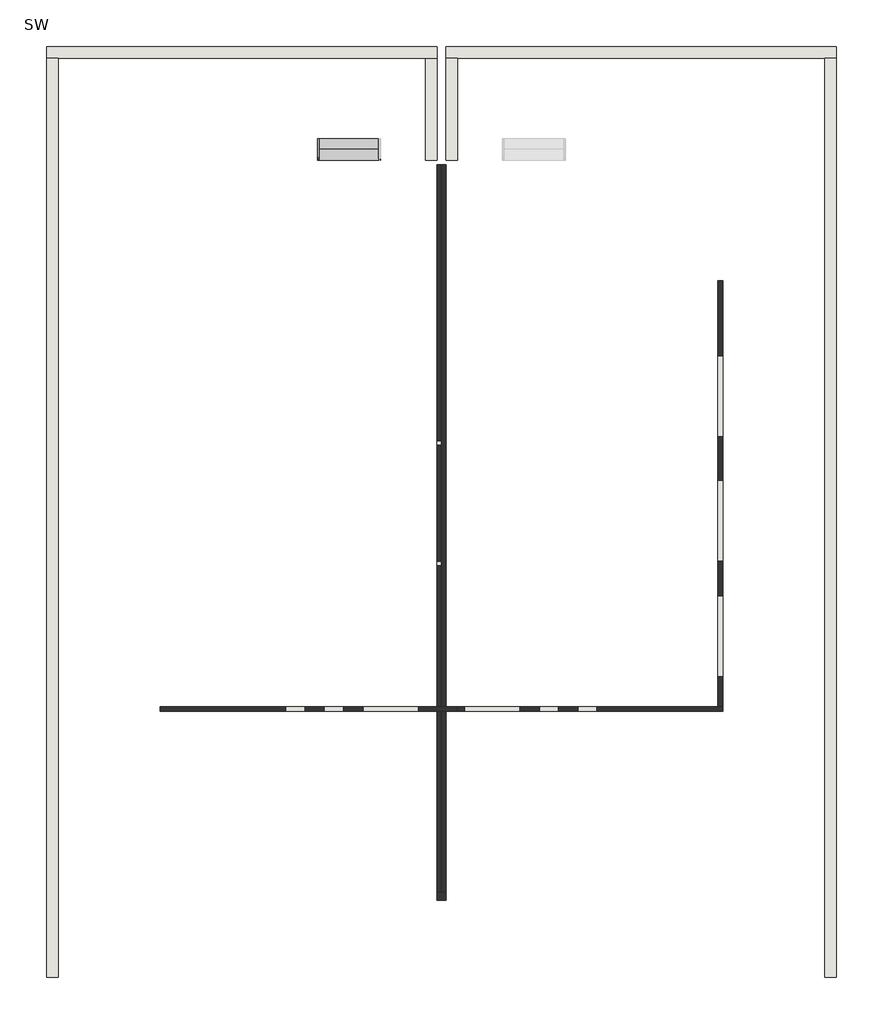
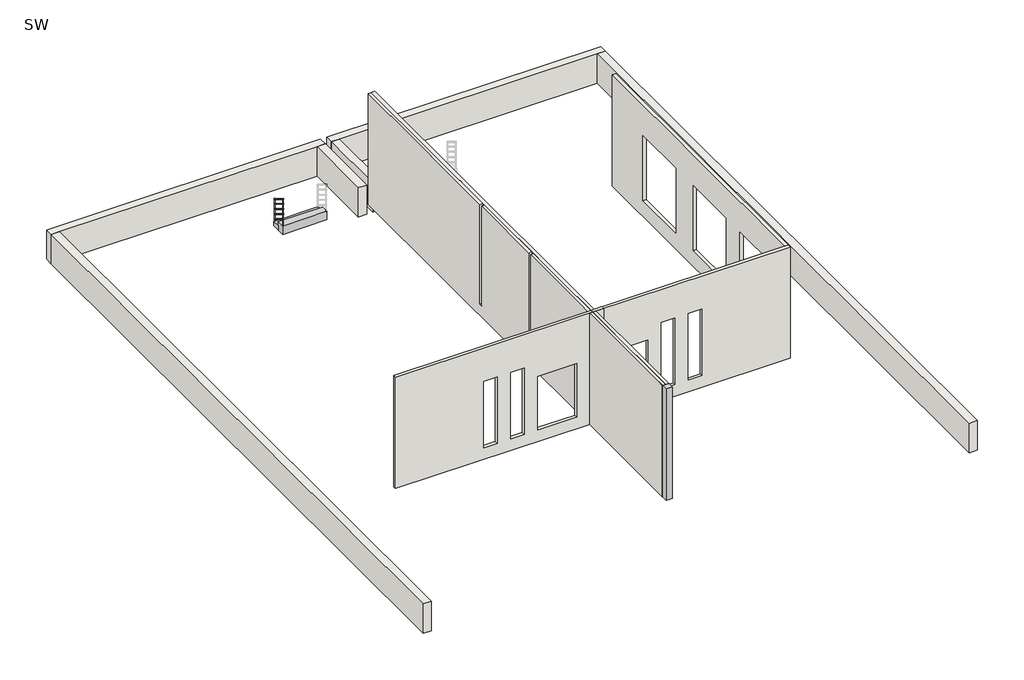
# One storey, part 1 of 2: 11 walls, 1 column, 1 railing, 1 stair flight.
"""IFC4 building model written with IfcOpenShell, lengths in millimetres."""

from ifc_helpers import new_model, si_unit, frame, origin, place, context, project, spatial, polyline, circle_curve, ellipse_curve, outline, extrude, faceted_brep, transform, mapped, element, save
from ifc_brep_helpers import plane_surface, cylinder_surface, advanced_brep
from components import z3_80b114b1

model = new_model("IFC4")

# Units and contexts
model_context = context("Model", 3, world=origin())
ifc_project = project(units=[si_unit("LENGTHUNIT", "METRE", prefix="MILLI")], contexts=[model_context])

# Site, building, storey
site = spatial("IfcSite", under=ifc_project)
building = spatial("IfcBuilding", under=site)
storey = spatial("IfcBuildingStorey", under=building, Name="SW", Elevation=-450.0)

# Column
placement = place(None, origin())
z3_shape = z3_80b114b1(model_context)
element("IfcColumn", 1, ObjectType="混凝土 - 矩形 - 柱 : Z3", at=placement, inside=storey, context=model_context, shape_type="MappedRepresentation", body=[
    mapped(z3_shape, transform((854.6008885, -5003.5593818, 0.0), x_axis=(0.0, 1.0, 0.0), y_axis=(-1.0, 0.0, 0.0), z_axis=(0.0, 0.0, 1.0))),
])

# Railing
element("IfcRailing", 2, ObjectType="900mm 圆管", at=placement, inside=storey, context=model_context, shape_type="AdvancedBrep", body=[
    advanced_brep(
    [(-2359.9991115, 14531.4406182, 443.3917154), (-2319.9991115, 14531.4406182, 443.3917154), (-2359.9991115, 13971.4406182, 776.7250487), (-2319.9991115, 13971.4406182, 776.7250487)],
    [
        (0, 1, ellipse_curve(frame((-2339.9991115, 14531.4406182, 443.3917154), z_axis=(0.0, 1.0, 0.0), x_axis=(0.0, 0.0, -1.0)), 23.2749513, 20.0)),
        (1, 0, ellipse_curve(frame((-2339.9991115, 14531.4406182, 443.3917154), z_axis=(0.0, 1.0, 0.0), x_axis=(0.0, 0.0, -1.0)), 23.2749513, 20.0)),
        (2, 3, ellipse_curve(frame((-2339.9991115, 13971.4406182, 776.7250487), z_axis=(0.0, -1.0, 0.0), x_axis=(0.0, 0.0, -1.0)), 23.2749513, 20.0)),
        (3, 2, ellipse_curve(frame((-2339.9991115, 13971.4406182, 776.7250487), z_axis=(0.0, -1.0, 0.0), x_axis=(0.0, 0.0, -1.0)), 23.2749513, 20.0)),
        (0, 2),
        (3, 1),
    ],
    [
        plane_surface(frame((-2339.9991115, 14531.4406182, 466.6666667), z_axis=(0.0, 1.0, 0.0), x_axis=(0.0, 0.0, -1.0))),
        plane_surface(frame((-2339.9991115, 13971.4406182, 800.0), z_axis=(0.0, -1.0, 0.0), x_axis=(0.0, 0.0, -1.0))),
        cylinder_surface(frame((-2339.9991115, 14521.210941, 449.480809), z_axis=(0.0, 0.859292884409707, -0.5114838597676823), x_axis=(1.0, 0.0, 0.0)), 20.0),
    ],
    [
        (0, [[1, 2]]),
        (1, [[3, 4]]),
        (2, [[-1, 5, -4, 6]]),
        (2, [[-2, -6, -3, -5]]),
    ],
),
    advanced_brep(
    [(-2324.9991115, 14531.4406182, 249.2104532), (-2354.9991115, 14531.4406182, 249.2104532), (-2324.9991115, 13971.4406182, 582.5437866), (-2354.9991115, 13971.4406182, 582.5437866)],
    [
        (0, 1, ellipse_curve(frame((-2339.9991115, 14531.4406182, 249.2104532), z_axis=(0.0, 1.0, 0.0), x_axis=(0.0, 0.0, -1.0)), 17.4562134, 15.0)),
        (1, 0, ellipse_curve(frame((-2339.9991115, 14531.4406182, 249.2104532), z_axis=(0.0, 1.0, 0.0), x_axis=(0.0, 0.0, -1.0)), 17.4562134, 15.0)),
        (2, 3, ellipse_curve(frame((-2339.9991115, 13971.4406182, 582.5437866), z_axis=(0.0, -1.0, 0.0), x_axis=(0.0, 0.0, -1.0)), 17.4562134, 15.0)),
        (3, 2, ellipse_curve(frame((-2339.9991115, 13971.4406182, 582.5437866), z_axis=(0.0, -1.0, 0.0), x_axis=(0.0, 0.0, -1.0)), 17.4562134, 15.0)),
        (0, 2),
        (3, 1),
    ],
    [
        plane_surface(frame((-2339.9991115, 14531.4406182, 266.6666667), z_axis=(0.0, 1.0, 0.0), x_axis=(0.0, 0.0, -1.0))),
        plane_surface(frame((-2339.9991115, 13971.4406182, 600.0), z_axis=(0.0, -1.0, 0.0), x_axis=(0.0, 0.0, -1.0))),
        cylinder_surface(frame((-2339.9991115, 14523.7683603, 253.7772734), z_axis=(0.0, 0.859292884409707, -0.5114838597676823), x_axis=(-1.0, 0.0, 0.0)), 15.0),
    ],
    [
        (0, [[1, 2]]),
        (1, [[3, 4]]),
        (2, [[-1, 5, -4, 6]]),
        (2, [[-2, -6, -3, -5]]),
    ],
),
    advanced_brep(
    [(-2324.9991115, 14531.4406182, 49.2104532), (-2354.9991115, 14531.4406182, 49.2104532), (-2324.9991115, 13971.4406182, 382.5437866), (-2354.9991115, 13971.4406182, 382.5437866)],
    [
        (0, 1, ellipse_curve(frame((-2339.9991115, 14531.4406182, 49.2104532), z_axis=(0.0, 1.0, 0.0), x_axis=(0.0, 0.0, -1.0)), 17.4562134, 15.0)),
        (1, 0, ellipse_curve(frame((-2339.9991115, 14531.4406182, 49.2104532), z_axis=(0.0, 1.0, 0.0), x_axis=(0.0, 0.0, -1.0)), 17.4562134, 15.0)),
        (2, 3, ellipse_curve(frame((-2339.9991115, 13971.4406182, 382.5437866), z_axis=(0.0, -1.0, 0.0), x_axis=(0.0, 0.0, -1.0)), 17.4562134, 15.0)),
        (3, 2, ellipse_curve(frame((-2339.9991115, 13971.4406182, 382.5437866), z_axis=(0.0, -1.0, 0.0), x_axis=(0.0, 0.0, -1.0)), 17.4562134, 15.0)),
        (0, 2),
        (3, 1),
    ],
    [
        plane_surface(frame((-2339.9991115, 14531.4406182, 66.6666667), z_axis=(0.0, 1.0, 0.0), x_axis=(0.0, 0.0, -1.0))),
        plane_surface(frame((-2339.9991115, 13971.4406182, 400.0), z_axis=(0.0, -1.0, 0.0), x_axis=(0.0, 0.0, -1.0))),
        cylinder_surface(frame((-2339.9991115, 14523.7683603, 53.7772734), z_axis=(0.0, 0.859292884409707, -0.5114838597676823), x_axis=(-1.0, 0.0, 0.0)), 15.0),
    ],
    [
        (0, [[1, 2]]),
        (1, [[3, 4]]),
        (2, [[-1, 5, -4, 6]]),
        (2, [[-2, -6, -3, -5]]),
    ],
),
    advanced_brep(
    [(-2324.9991115, 14531.4406182, -150.7895468), (-2354.9991115, 14531.4406182, -150.7895468), (-2324.9991115, 13971.4406182, 182.5437866), (-2354.9991115, 13971.4406182, 182.5437866)],
    [
        (0, 1, ellipse_curve(frame((-2339.9991115, 14531.4406182, -150.7895468), z_axis=(0.0, 1.0, 0.0), x_axis=(0.0, 0.0, -1.0)), 17.4562134, 15.0)),
        (1, 0, ellipse_curve(frame((-2339.9991115, 14531.4406182, -150.7895468), z_axis=(0.0, 1.0, 0.0), x_axis=(0.0, 0.0, -1.0)), 17.4562134, 15.0)),
        (2, 3, ellipse_curve(frame((-2339.9991115, 13971.4406182, 182.5437866), z_axis=(0.0, -1.0, 0.0), x_axis=(0.0, 0.0, -1.0)), 17.4562134, 15.0)),
        (3, 2, ellipse_curve(frame((-2339.9991115, 13971.4406182, 182.5437866), z_axis=(0.0, -1.0, 0.0), x_axis=(0.0, 0.0, -1.0)), 17.4562134, 15.0)),
        (0, 2),
        (3, 1),
    ],
    [
        plane_surface(frame((-2339.9991115, 14531.4406182, -133.3333333), z_axis=(0.0, 1.0, 0.0), x_axis=(0.0, 0.0, -1.0))),
        plane_surface(frame((-2339.9991115, 13971.4406182, 200.0), z_axis=(0.0, -1.0, 0.0), x_axis=(0.0, 0.0, -1.0))),
        cylinder_surface(frame((-2339.9991115, 14523.7683603, -146.2227266), z_axis=(0.0, 0.859292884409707, -0.5114838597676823), x_axis=(-1.0, 0.0, 0.0)), 15.0),
    ],
    [
        (0, [[1, 2]]),
        (1, [[3, 4]]),
        (2, [[-1, 5, -4, 6]]),
        (2, [[-2, -6, -3, -5]]),
    ],
),
    advanced_brep(
    [(-2324.9991115, 14531.4406182, -350.7895468), (-2354.9991115, 14531.4406182, -350.7895468), (-2324.9991115, 13971.4406182, -17.4562134), (-2354.9991115, 13971.4406182, -17.4562134)],
    [
        (0, 1, ellipse_curve(frame((-2339.9991115, 14531.4406182, -350.7895468), z_axis=(0.0, 1.0, 0.0), x_axis=(0.0, 0.0, -1.0)), 17.4562134, 15.0)),
        (1, 0, ellipse_curve(frame((-2339.9991115, 14531.4406182, -350.7895468), z_axis=(0.0, 1.0, 0.0), x_axis=(0.0, 0.0, -1.0)), 17.4562134, 15.0)),
        (2, 3, ellipse_curve(frame((-2339.9991115, 13971.4406182, -17.4562134), z_axis=(0.0, -1.0, 0.0), x_axis=(0.0, 0.0, -1.0)), 17.4562134, 15.0)),
        (3, 2, ellipse_curve(frame((-2339.9991115, 13971.4406182, -17.4562134), z_axis=(0.0, -1.0, 0.0), x_axis=(0.0, 0.0, -1.0)), 17.4562134, 15.0)),
        (0, 2),
        (3, 1),
    ],
    [
        plane_surface(frame((-2339.9991115, 14531.4406182, -333.3333333), z_axis=(0.0, 1.0, 0.0), x_axis=(0.0, 0.0, -1.0))),
        plane_surface(frame((-2339.9991115, 13971.4406182, 0.0), z_axis=(0.0, -1.0, 0.0), x_axis=(0.0, 0.0, -1.0))),
        cylinder_surface(frame((-2339.9991115, 14523.7683603, -346.2227266), z_axis=(0.0, 0.859292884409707, -0.5114838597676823), x_axis=(-1.0, 0.0, 0.0)), 15.0),
    ],
    [
        (0, [[1, 2]]),
        (1, [[3, 4]]),
        (2, [[-1, 5, -4, 6]]),
        (2, [[-2, -6, -3, -5]]),
    ],
),
    advanced_brep(
    [(-2352.4991115, 13983.9406182, 746.0096213), (-2352.4991115, 13983.9406182, -266.6666667), (-2327.4991115, 13983.9406182, -266.6666667), (-2327.4991115, 13983.9406182, 746.0096213)],
    [
        (0, 1),
        (1, 2, circle_curve(frame((-2339.9991115, 13983.9406182, -266.6666667), z_axis=(0.0, 0.0, 1.0), x_axis=(1.0, 0.0, 0.0)), 12.5)),
        (2, 3),
        (3, 0, ellipse_curve(frame((-2339.9991115, 13983.9406182, 746.0096213), z_axis=(0.0, -0.5114838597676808, -0.8592928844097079), x_axis=(0.0, -0.8592928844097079, 0.5114838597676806)), 14.5468445, 12.5)),
        (0, 3, ellipse_curve(frame((-2339.9991115, 13983.9406182, 746.0096213), z_axis=(0.0, -0.5114838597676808, -0.8592928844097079), x_axis=(0.0, -0.8592928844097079, 0.5114838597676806)), 14.5468445, 12.5)),
        (2, 1, circle_curve(frame((-2339.9991115, 13983.9406182, -266.6666667), z_axis=(0.0, 0.0, 1.0), x_axis=(1.0, 0.0, 0.0)), 12.5)),
    ],
    [
        cylinder_surface(frame((-2339.9991115, 13983.9406182, -366.6666667), z_axis=(0.0, 0.0, 1.0), x_axis=(1.0, 0.0, 0.0)), 12.5),
        plane_surface(frame((-2314.9991115, 13958.9406182, 760.8905737), z_axis=(0.0, 0.5114838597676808, 0.8592928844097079), x_axis=(-1.0, 0.0, 0.0))),
        plane_surface(frame((-2314.9991115, 14008.9406182, -266.6666667), z_axis=(0.0, 0.0, -1.0), x_axis=(-1.0, 0.0, 0.0))),
    ],
    [
        (0, [[1, 2, 3, 4]]),
        (0, [[-1, 5, -3, 6]]),
        (1, [[-4, -5]]),
        (2, [[-2, -6]]),
    ],
),
    advanced_brep(
    [(-2352.4991115, 14518.9406182, 427.5572403), (-2352.4991115, 14518.9406182, -433.3333333), (-2327.4991115, 14518.9406182, -433.3333333), (-2327.4991115, 14518.9406182, 427.5572403)],
    [
        (0, 1),
        (1, 2, circle_curve(frame((-2339.9991115, 14518.9406182, -433.3333333), z_axis=(0.0, 0.0, 1.0), x_axis=(1.0, 0.0, 0.0)), 12.5)),
        (2, 3),
        (3, 0, ellipse_curve(frame((-2339.9991115, 14518.9406182, 427.5572403), z_axis=(0.0, -0.5114838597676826, -0.8592928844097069), x_axis=(0.0, -0.8592928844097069, 0.5114838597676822)), 14.5468445, 12.5)),
        (0, 3, ellipse_curve(frame((-2339.9991115, 14518.9406182, 427.5572403), z_axis=(0.0, -0.5114838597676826, -0.8592928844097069), x_axis=(0.0, -0.8592928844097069, 0.5114838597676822)), 14.5468445, 12.5)),
        (2, 1, circle_curve(frame((-2339.9991115, 14518.9406182, -433.3333333), z_axis=(0.0, 0.0, 1.0), x_axis=(1.0, 0.0, 0.0)), 12.5)),
    ],
    [
        cylinder_surface(frame((-2339.9991115, 14518.9406182, -533.3333333), z_axis=(0.0, 0.0, 1.0), x_axis=(1.0, 0.0, 0.0)), 12.5),
        plane_surface(frame((-2314.9991115, 14493.9406182, 442.4381927), z_axis=(0.0, 0.5114838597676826, 0.8592928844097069), x_axis=(-1.0, 0.0, 0.0))),
        plane_surface(frame((-2314.9991115, 14543.9406182, -433.3333333), z_axis=(0.0, 0.0, -1.0), x_axis=(-1.0, 0.0, 0.0))),
    ],
    [
        (0, [[1, 2, 3, 4]]),
        (0, [[-1, 5, -3, 6]]),
        (1, [[-4, -5]]),
        (2, [[-2, -6]]),
    ],
),
])

# Stair flight
element("IfcStairFlight", 3, ObjectType="500mm 结构深度 2", at=placement, inside=storey, context=model_context, shape_type="Brep", body=[
    faceted_brep([(-725.3991115, 14251.4406182, -433.3333333), (-725.3991115, 14531.4406182, -433.3333333), (-2365.3991115, 14531.4406182, -433.3333333), (-2365.3991115, 14251.4406182, -433.3333333), (-725.3991115, 14251.4406182, -600.0), (-725.3991115, 14531.4406182, -600.0), (-2365.3991115, 14531.4406182, -600.0), (-2365.3991115, 14251.4406182, -600.0), (-725.3991115, 13971.4406182, -266.6666667), (-725.3991115, 14251.4406182, -266.6666667), (-2365.3991115, 14251.4406182, -266.6666667), (-2365.3991115, 13971.4406182, -266.6666667), (-725.3991115, 13971.4406182, -600.0), (-2365.3991115, 13971.4406182, -600.0)], [[[0, 1, 2, 3]], [[1, 0, 4, 5]], [[2, 1, 5, 6]], [[3, 2, 6, 7]], [[8, 9, 10, 11]], [[4, 0, 9, 8, 12]], [[0, 3, 10, 9]], [[3, 7, 13, 11, 10]], [[8, 11, 13, 12]], [[5, 4, 12, 13, 7, 6]]]),
])

# Walls
element("IfcWall", 4, ObjectType="考试墙体120", at=placement, inside=storey, context=model_context, shape_type="Brep", body=[
    faceted_brep([(1254.6008885, -208.5593818, -450.0), (854.6008885, -208.5593818, -450.0), (734.6008885, -208.5593818, -450.0), (-6445.3991115, -208.5593818, -450.0), (-6445.3991115, -208.5593818, 0.0), (-6445.3991115, -208.5593818, 3900.0), (-6325.3991115, -208.5593818, 3900.0), (734.6008885, -208.5593818, 3900.0), (854.6008885, -208.5593818, 3900.0), (1254.6008885, -208.5593818, 3900.0), (-2685.3991115, -208.5593818, 2600.0), (-3185.3991115, -208.5593818, 2600.0), (-3185.3991115, -208.5593818, 0.0), (-2685.3991115, -208.5593818, 0.0), (-2185.3991115, -208.5593818, 2600.0), (-2185.3991115, -208.5593818, 0.0), (-1685.3991115, -208.5593818, 0.0), (-1685.3991115, -208.5593818, 2600.0), (-1185.3991115, -208.5593818, 2100.0), (-1185.3991115, -208.5593818, 0.0), (254.6008885, -208.5593818, 0.0), (254.6008885, -208.5593818, 2100.0), (-6445.3991115, -328.5593818, -450.0), (734.6008885, -328.5593818, -450.0), (854.6008885, -328.5593818, -450.0), (1254.6008885, -328.5593818, -450.0), (1254.6008885, -328.5593818, 3900.0), (854.6008885, -328.5593818, 3900.0), (734.6008885, -328.5593818, 3900.0), (-6445.3991115, -328.5593818, 3900.0), (-2685.3991115, -328.5593818, 2600.0), (-2685.3991115, -328.5593818, 0.0), (-3185.3991115, -328.5593818, 0.0), (-3185.3991115, -328.5593818, 2600.0), (-2185.3991115, -328.5593818, 2600.0), (-1685.3991115, -328.5593818, 2600.0), (-1685.3991115, -328.5593818, 0.0), (-2185.3991115, -328.5593818, 0.0), (-1185.3991115, -328.5593818, 0.0), (-1185.3991115, -328.5593818, 2100.0), (254.6008885, -328.5593818, 2100.0), (254.6008885, -328.5593818, 0.0)], [[[0, 1, 2, 3, 4, 5, 6, 7, 8, 9], [10, 11, 12, 13], [14, 15, 16, 17], [18, 19, 20, 21]], [[22, 23, 24, 25, 26, 27, 28, 29], [30, 31, 32, 33], [34, 35, 36, 37], [38, 39, 40, 41]], [[3, 2, 1, 0, 25, 24, 23, 22]], [[9, 8, 7, 6, 5, 29, 28, 27, 26]], [[0, 9, 26, 25]], [[5, 4, 3, 22, 29]], [[31, 30, 10, 13]], [[32, 31, 13, 12]], [[33, 32, 12, 11]], [[30, 33, 11, 10]], [[15, 14, 34, 37]], [[16, 15, 37, 36]], [[17, 16, 36, 35]], [[14, 17, 35, 34]], [[38, 19, 18, 39]], [[39, 18, 21, 40]], [[40, 21, 20, 41]], [[19, 38, 41, 20]]]),
])
element("IfcWall", 5, ObjectType="常规 - 300mm", at=placement, inside=storey, context=model_context, shape_type="Brep", body=[
    faceted_brep([(-9395.3991115, 16621.4406182, -900.0), (-9095.3991115, 16621.4406182, -900.0), (439.6008885, 16621.4406182, -900.0), (739.6008885, 16621.4406182, -900.0), (739.6008885, 16621.4406182, 250.0), (439.6008885, 16621.4406182, 250.0), (-9095.3991115, 16621.4406182, 250.0), (-9395.3991115, 16621.4406182, 250.0), (-9395.3991115, 16921.4406182, -900.0), (-9395.3991115, 16921.4406182, 250.0), (739.6008885, 16921.4406182, 250.0), (739.6008885, 16921.4406182, -900.0)], [[[0, 1, 2, 3, 4, 5, 6, 7]], [[8, 9, 10, 11]], [[3, 2, 1, 0, 8, 11]], [[7, 6, 5, 4, 10, 9]], [[4, 3, 11, 10]], [[0, 7, 9, 8]]]),
])
element("IfcWall", 6, ObjectType="常规 - 300mm", at=placement, inside=storey, context=model_context, shape_type="SweptSolid", body=[
    extrude(outline(polyline([(439.6008885, 13971.4406182), (439.6008885, 16621.4406182), (739.6008885, 16621.4406182), (739.6008885, 13971.4406182), (439.6008885, 13971.4406182)])), frame((0.0, 0.0, -900.0), z_axis=(0.0, 0.0, 1.0), x_axis=(1.0, 0.0, 0.0)), (0.0, 0.0, 1.0), 1150.0),
])
element("IfcWall", 7, ObjectType="常规 - 300mm", at=placement, inside=storey, context=model_context, shape_type="SweptSolid", body=[
    extrude(outline(polyline([(-9095.3991115, 16621.4406182), (-9095.3991115, -7228.5593818), (-9395.3991115, -7228.5593818), (-9395.3991115, 16621.4406182), (-9095.3991115, 16621.4406182)])), frame((0.0, 0.0, -900.0), z_axis=(0.0, 0.0, 1.0), x_axis=(1.0, 0.0, 0.0)), (0.0, 0.0, 1.0), 1150.0),
])
element("IfcWall", 8, ObjectType="考试墙体120", at=placement, inside=storey, context=model_context, shape_type="Brep", body=[
    faceted_brep([(854.6008885, -328.5593818, -450.0), (8154.6008885, -328.5593818, -450.0), (8154.6008885, -328.5593818, 3900.0), (854.6008885, -328.5593818, 3900.0), (4394.6008885, -328.5593818, 2600.0), (4894.6008885, -328.5593818, 2600.0), (4894.6008885, -328.5593818, 0.0), (4394.6008885, -328.5593818, 0.0), (3894.6008885, -328.5593818, 2600.0), (3894.6008885, -328.5593818, 0.0), (3394.6008885, -328.5593818, 0.0), (3394.6008885, -328.5593818, 2600.0), (2894.6008885, -328.5593818, 2100.0), (2894.6008885, -328.5593818, 0.0), (1454.6008885, -328.5593818, 0.0), (1454.6008885, -328.5593818, 2100.0), (8154.6008885, -208.5593818, -450.0), (8034.6008885, -208.5593818, -450.0), (854.6008885, -208.5593818, -450.0), (854.6008885, -208.5593818, 3900.0), (8034.6008885, -208.5593818, 3900.0), (8154.6008885, -208.5593818, 3900.0), (4394.6008885, -208.5593818, 2600.0), (4394.6008885, -208.5593818, 0.0), (4894.6008885, -208.5593818, 0.0), (4894.6008885, -208.5593818, 2600.0), (3894.6008885, -208.5593818, 2600.0), (3394.6008885, -208.5593818, 2600.0), (3394.6008885, -208.5593818, 0.0), (3894.6008885, -208.5593818, 0.0), (2894.6008885, -208.5593818, 0.0), (2894.6008885, -208.5593818, 2100.0), (1454.6008885, -208.5593818, 2100.0), (1454.6008885, -208.5593818, 0.0)], [[[0, 1, 2, 3], [4, 5, 6, 7], [8, 9, 10, 11], [12, 13, 14, 15]], [[16, 17, 18, 19, 20, 21], [22, 23, 24, 25], [26, 27, 28, 29], [30, 31, 32, 33]], [[1, 0, 18, 17, 16]], [[3, 2, 21, 20, 19]], [[2, 1, 16, 21]], [[23, 22, 4, 7]], [[24, 23, 7, 6]], [[25, 24, 6, 5]], [[22, 25, 5, 4]], [[9, 8, 26, 29]], [[10, 9, 29, 28]], [[11, 10, 28, 27]], [[8, 11, 27, 26]], [[30, 13, 12, 31]], [[31, 12, 15, 32]], [[32, 15, 14, 33]], [[13, 30, 33, 14]], [[0, 3, 19, 18]]]),
])
element("IfcWall", 9, ObjectType="考试墙体120", at=placement, inside=storey, context=model_context, shape_type="Brep", body=[
    faceted_brep([(8154.6008885, -208.5593818, -450.0), (8154.6008885, 10851.4406182, -450.0), (8154.6008885, 10851.4406182, 0.0), (8154.6008885, 10851.4406182, 3900.0), (8154.6008885, -208.5593818, 3900.0), (8154.6008885, 571.4406182, 2700.0), (8154.6008885, 2671.4406182, 2700.0), (8154.6008885, 2671.4406182, 150.0), (8154.6008885, 571.4406182, 150.0), (8154.6008885, 3571.4406182, 2700.0), (8154.6008885, 5671.4406182, 2700.0), (8154.6008885, 5671.4406182, 150.0), (8154.6008885, 3571.4406182, 150.0), (8154.6008885, 6801.4406182, 2700.0), (8154.6008885, 8901.4406182, 2700.0), (8154.6008885, 8901.4406182, 150.0), (8154.6008885, 6801.4406182, 150.0), (8034.6008885, -208.5593818, -450.0), (8034.6008885, -208.5593818, 3900.0), (8034.6008885, 10851.4406182, 3900.0), (8034.6008885, 10851.4406182, 2700.0), (8034.6008885, 10851.4406182, 150.0), (8034.6008885, 10851.4406182, -450.0), (8034.6008885, 571.4406182, 2700.0), (8034.6008885, 571.4406182, 150.0), (8034.6008885, 2671.4406182, 150.0), (8034.6008885, 2671.4406182, 2700.0), (8034.6008885, 3571.4406182, 2700.0), (8034.6008885, 3571.4406182, 150.0), (8034.6008885, 5671.4406182, 150.0), (8034.6008885, 5671.4406182, 2700.0), (8034.6008885, 6801.4406182, 2700.0), (8034.6008885, 6801.4406182, 150.0), (8034.6008885, 8901.4406182, 150.0), (8034.6008885, 8901.4406182, 2700.0)], [[[0, 1, 2, 3, 4], [5, 6, 7, 8], [9, 10, 11, 12], [13, 14, 15, 16]], [[17, 18, 19, 20, 21, 22], [23, 24, 25, 26], [27, 28, 29, 30], [31, 32, 33, 34]], [[1, 0, 17, 22]], [[4, 3, 19, 18]], [[0, 4, 18, 17]], [[3, 2, 1, 22, 21, 20, 19]], [[24, 23, 5, 8]], [[25, 24, 8, 7]], [[26, 25, 7, 6]], [[23, 26, 6, 5]], [[28, 27, 9, 12]], [[29, 28, 12, 11]], [[30, 29, 11, 10]], [[27, 30, 10, 9]], [[32, 31, 13, 16]], [[33, 32, 16, 15]], [[34, 33, 15, 14]], [[31, 34, 14, 13]]]),
])
element("IfcWall", 10, ObjectType="常规 - 300mm", at=placement, inside=storey, context=model_context, shape_type="Brep", body=[
    faceted_brep([(11104.6008885, 16921.4406182, -900.0), (969.6008885, 16921.4406182, -900.0), (969.6008885, 16921.4406182, 250.0), (11104.6008885, 16921.4406182, 250.0), (11104.6008885, 16621.4406182, -900.0), (11104.6008885, 16621.4406182, 250.0), (10804.6008885, 16621.4406182, 250.0), (1269.6008885, 16621.4406182, 250.0), (969.6008885, 16621.4406182, 250.0), (969.6008885, 16621.4406182, -900.0), (1269.6008885, 16621.4406182, -900.0), (10804.6008885, 16621.4406182, -900.0)], [[[0, 1, 2, 3]], [[4, 5, 6, 7, 8, 9, 10, 11]], [[1, 0, 4, 11, 10, 9]], [[3, 2, 8, 7, 6, 5]], [[2, 1, 9, 8]], [[0, 3, 5, 4]]]),
])
element("IfcWall", 11, ObjectType="常规 - 300mm", at=placement, inside=storey, context=model_context, shape_type="SweptSolid", body=[
    extrude(outline(polyline([(969.6008885, 13971.4406182), (969.6008885, 16621.4406182), (1269.6008885, 16621.4406182), (1269.6008885, 13971.4406182), (969.6008885, 13971.4406182)])), frame((0.0, 0.0, -900.0), z_axis=(0.0, 0.0, 1.0), x_axis=(1.0, 0.0, 0.0)), (0.0, 0.0, 1.0), 1150.0),
])
element("IfcWall", 12, ObjectType="常规 - 300mm", at=placement, inside=storey, context=model_context, shape_type="SweptSolid", body=[
    extrude(outline(polyline([(11104.6008885, 16621.4406182), (11104.6008885, -7228.5593818), (10804.6008885, -7228.5593818), (10804.6008885, 16621.4406182), (11104.6008885, 16621.4406182)])), frame((0.0, 0.0, -900.0), z_axis=(0.0, 0.0, 1.0), x_axis=(1.0, 0.0, 0.0)), (0.0, 0.0, 1.0), 1150.0),
])
element("IfcWall", 13, ObjectType="考试墙体120", at=placement, inside=storey, context=model_context, shape_type="Brep", body=[
    faceted_brep([(854.6008885, 13851.4406182, -450.0), (854.6008885, -5003.5593818, -450.0), (854.6008885, -5003.5593818, 3900.0), (854.6008885, 13851.4406182, 3900.0), (854.6008885, 13851.4406182, 3150.0), (854.6008885, 13851.4406182, 0.0), (974.6008885, 13851.4406182, -450.0), (974.6008885, 13851.4406182, 3900.0), (974.6008885, -5003.5593818, 3900.0), (974.6008885, -5003.5593818, -450.0)], [[[0, 1, 2, 3, 4, 5]], [[6, 7, 8, 9]], [[1, 0, 6, 9]], [[2, 1, 9, 8]], [[3, 2, 8, 7]], [[0, 5, 4, 3, 7, 6]]]),
])
element("IfcWall", 14, ObjectType="考试墙体120", at=placement, inside=storey, context=model_context, shape_type="Brep", body=[
    faceted_brep([(734.6008885, -5003.5593818, -450.0), (734.6008885, -5003.5593818, 3900.0), (734.6008885, -328.5593818, 3900.0), (734.6008885, -328.5593818, -450.0), (854.6008885, -5003.5593818, 3900.0), (854.6008885, -5003.5593818, -450.0), (854.6008885, -328.5593818, -450.0), (854.6008885, -328.5593818, 3900.0)], [[[0, 1, 2, 3]], [[4, 5, 6, 7]], [[5, 0, 3, 6]], [[1, 0, 5, 4]], [[1, 4, 7, 2]], [[3, 2, 7, 6]]]),
    faceted_brep([(734.6008885, 13851.4406182, -450.0), (734.6008885, -208.5593818, -450.0), (734.6008885, -208.5593818, 3900.0), (734.6008885, 3451.4406182, 3900.0), (734.6008885, 3451.4406182, 0.0), (734.6008885, 3571.4406182, 0.0), (734.6008885, 3571.4406182, 3900.0), (734.6008885, 6571.4406182, 3900.0), (734.6008885, 6571.4406182, 0.0), (734.6008885, 6691.4406182, 0.0), (734.6008885, 6691.4406182, 3900.0), (734.6008885, 10851.4406182, 3900.0), (734.6008885, 10971.4406182, 3900.0), (734.6008885, 13851.4406182, 3900.0), (854.6008885, -208.5593818, -450.0), (854.6008885, 13851.4406182, -450.0), (854.6008885, 13851.4406182, 0.0), (854.6008885, 13851.4406182, 3150.0), (854.6008885, 13851.4406182, 3900.0), (854.6008885, 10971.4406182, 3900.0), (854.6008885, 10851.4406182, 3900.0), (854.6008885, 6691.4406182, 3900.0), (854.6008885, 6691.4406182, 0.0), (854.6008885, 6571.4406182, 0.0), (854.6008885, 6571.4406182, 3900.0), (854.6008885, 3571.4406182, 3900.0), (854.6008885, 3571.4406182, 0.0), (854.6008885, 3451.4406182, 0.0), (854.6008885, 3451.4406182, 3900.0), (854.6008885, -208.5593818, 3900.0)], [[[0, 1, 2, 3, 4, 5, 6, 7, 8, 9, 10, 11, 12, 13]], [[14, 15, 16, 17, 18, 19, 20, 21, 22, 23, 24, 25, 26, 27, 28, 29]], [[1, 0, 15, 14]], [[2, 29, 28, 3]], [[24, 7, 6, 25]], [[13, 12, 11, 10, 21, 20, 19, 18]], [[2, 1, 14, 29]], [[9, 22, 21, 10]], [[23, 8, 7, 24]], [[22, 9, 8, 23]], [[5, 26, 25, 6]], [[27, 4, 3, 28]], [[26, 5, 4, 27]], [[0, 13, 18, 17, 16, 15]]]),
])

save(model, "model.ifc")
